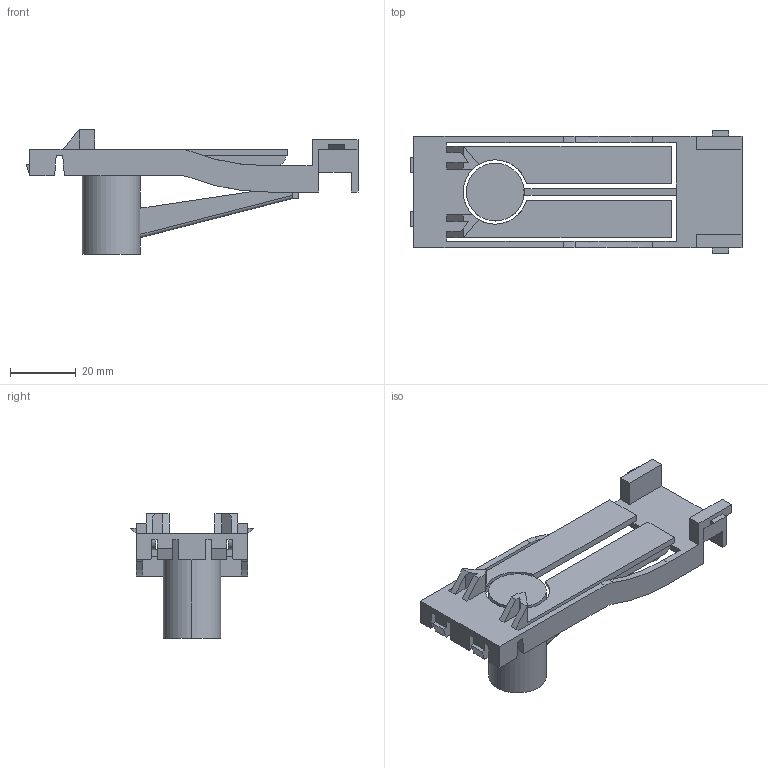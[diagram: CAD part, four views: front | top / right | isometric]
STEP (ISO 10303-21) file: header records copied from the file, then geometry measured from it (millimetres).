
FILE_DESCRIPTION(('3DEXPERIENCE STEP','CAx-IF Rec.Pracs.--- Model Styling and Organization---1.5--- 2016-08-15','CAx-IF Rec.Pracs.---Supplemental Geometry---1.0---2011-11-01','CAx-IF Rec.Pracs.--- Composite Materials ---3.4---2017-06-13','CAx-IF Rec.Pracs.---Tessellated 3D Geometry---1.0---2015-12-17'),'2;1');
FILE_NAME('\\?\C:\Users\GROR\OneDrive - V-ZUG AG\Dokumente\Tasks\WD-Singapur\China\P-Trap_WD_Hisense.stp','2026-08-21T07:21:32+00:00',('none'),('none'),'3DEXPERIENCE Platform3DEXPERIENCE R2024x HotFix 4','3DEXPERIENCE Platform STEP AP242 v3','none');
FILE_SCHEMA(('AP242_MANAGED_MODEL_BASED_3D_ENGINEERING_MIM_LF {1 0 10303 442 1 1 4}'));
Length unit declared in the file: millimetre
Products named in the file (1): 1354321
Bounding box: 101.2 x 37.5 x 38 mm (x, y, z)
Volume: 12926.5 mm3; surface area: 16034.4 mm2
Topology: 1 solids, 1 shells, 135 faces, 386 edges, 255 vertices
Faces by surface type: plane 107, cylinder 23, extrusion 4, cone 1
Entity records: 4236 total; most frequent: CARTESIAN_POINT 902, ORIENTED_EDGE 772, DIRECTION 536, EDGE_CURVE 386, VECTOR 322, LINE 318, VERTEX_POINT 255, EDGE_LOOP 139
